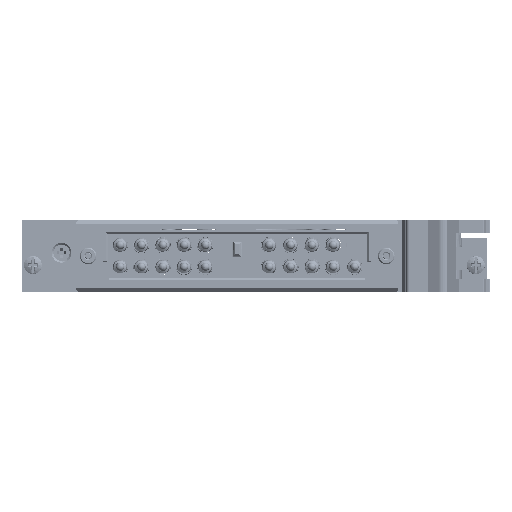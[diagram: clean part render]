
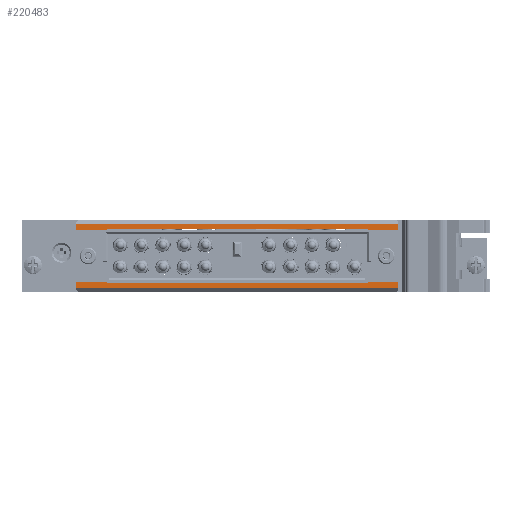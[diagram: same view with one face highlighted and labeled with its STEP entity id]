
A CAD part, left-side view. The second image highlights one B-rep face of the part: STEP entity #220483.
In plain terms, the highlighted planar face has unit normal (-1, 0, 0) as drawn and (0, 0, 1) by its records, which use the part's own axes.
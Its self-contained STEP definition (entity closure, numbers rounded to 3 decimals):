
#1611 = DIRECTION ( 'NONE',  ( 0., 0., -1. ) ) ;
#2577 = CIRCLE ( 'NONE', #169695, 1.3 ) ;
#4949 = CARTESIAN_POINT ( 'NONE',  ( 2.4, 17.9, 0. ) ) ;
#5783 = DIRECTION ( 'NONE',  ( 0., 0., -1. ) ) ;
#6589 = VERTEX_POINT ( 'NONE', #442742 ) ;
#7136 = VERTEX_POINT ( 'NONE', #204268 ) ;
#7488 = LINE ( 'NONE', #409384, #158562 ) ;
#13667 = DIRECTION ( 'NONE',  ( -1., 0., 0. ) ) ;
#14513 = DIRECTION ( 'NONE',  ( -1., 0., 0. ) ) ;
#15456 = EDGE_CURVE ( 'NONE', #336408, #7136, #415540, .T. ) ;
#21390 = CARTESIAN_POINT ( 'NONE',  ( 16.6, 17.9, 0. ) ) ;
#22224 = VERTEX_POINT ( 'NONE', #103247 ) ;
#23146 = AXIS2_PLACEMENT_3D ( 'NONE', #235941, #387944, #93170 ) ;
#23601 = VECTOR ( 'NONE', #177581, 1000. ) ;
#25145 = VERTEX_POINT ( 'NONE', #361915 ) ;
#26483 = EDGE_CURVE ( 'NONE', #216896, #230607, #148029, .T. ) ;
#30618 = EDGE_CURVE ( 'NONE', #6589, #336408, #218602, .T. ) ;
#31776 = EDGE_CURVE ( 'NONE', #428355, #45365, #372930, .T. ) ;
#33470 = CARTESIAN_POINT ( 'NONE',  ( 3.4, 88.9, 0. ) ) ;
#36454 = DIRECTION ( 'NONE',  ( 0., -1., 0. ) ) ;
#41565 = CARTESIAN_POINT ( 'NONE',  ( 1., 8.8, 0. ) ) ;
#45365 = VERTEX_POINT ( 'NONE', #313812 ) ;
#47147 = CARTESIAN_POINT ( 'NONE',  ( 2.4, 112.9, 0. ) ) ;
#56345 = EDGE_LOOP ( 'NONE', ( #83789, #281522 ) ) ;
#57867 = VECTOR ( 'NONE', #354580, 1000. ) ;
#61900 = DIRECTION ( 'NONE',  ( -1., 0., 0. ) ) ;
#62850 = CIRCLE ( 'NONE', #199689, 1. ) ;
#64407 = EDGE_LOOP ( 'NONE', ( #246586, #457814 ) ) ;
#70059 = CARTESIAN_POINT ( 'NONE',  ( 10., 94.7, 0. ) ) ;
#71965 = CARTESIAN_POINT ( 'NONE',  ( 19., 97., 0. ) ) ;
#80831 = ORIENTED_EDGE ( 'NONE', *, *, #196107, .T. ) ;
#82844 = EDGE_CURVE ( 'NONE', #152511, #447654, #114751, .T. ) ;
#83789 = ORIENTED_EDGE ( 'NONE', *, *, #428680, .T. ) ;
#84959 = VERTEX_POINT ( 'NONE', #41565 ) ;
#93170 = DIRECTION ( 'NONE',  ( -1., 0., 0. ) ) ;
#93571 = DIRECTION ( 'NONE',  ( -1., 0., 0. ) ) ;
#96625 = CARTESIAN_POINT ( 'NONE',  ( 16.6, 88.9, 0. ) ) ;
#101089 = AXIS2_PLACEMENT_3D ( 'NONE', #33470, #468716, #423683 ) ;
#103247 = CARTESIAN_POINT ( 'NONE',  ( 16.6, 89.9, 0. ) ) ;
#104447 = AXIS2_PLACEMENT_3D ( 'NONE', #21390, #130801, #385205 ) ;
#107001 = CIRCLE ( 'NONE', #23146, 1. ) ;
#113366 = VERTEX_POINT ( 'NONE', #309330 ) ;
#114737 = EDGE_LOOP ( 'NONE', ( #410338, #465293, #243467, #80831 ) ) ;
#114751 = LINE ( 'NONE', #71965, #290606 ) ;
#115992 = CIRCLE ( 'NONE', #101089, 1. ) ;
#123894 = FACE_BOUND ( 'NONE', #64407, .T. ) ;
#130125 = CARTESIAN_POINT ( 'NONE',  ( 16.6, 16.9, 0. ) ) ;
#130801 = DIRECTION ( 'NONE',  ( 0., 0., -1. ) ) ;
#140510 = AXIS2_PLACEMENT_3D ( 'NONE', #378861, #383568, #93571 ) ;
#146509 = VECTOR ( 'NONE', #13667, 1000. ) ;
#147143 = ORIENTED_EDGE ( 'NONE', *, *, #169003, .T. ) ;
#148029 = CIRCLE ( 'NONE', #140510, 1.3 ) ;
#152511 = VERTEX_POINT ( 'NONE', #312368 ) ;
#152671 = CARTESIAN_POINT ( 'NONE',  ( 8.7, 12.1, 0. ) ) ;
#158083 = CIRCLE ( 'NONE', #454079, 1.3 ) ;
#158562 = VECTOR ( 'NONE', #14513, 1000. ) ;
#161590 = EDGE_CURVE ( 'NONE', #230607, #216896, #2577, .T. ) ;
#161839 = DIRECTION ( 'NONE',  ( 0., 0., -1. ) ) ;
#169003 = EDGE_CURVE ( 'NONE', #113366, #22224, #407484, .T. ) ;
#169695 = AXIS2_PLACEMENT_3D ( 'NONE', #70059, #5783, #362528 ) ;
#171954 = ORIENTED_EDGE ( 'NONE', *, *, #224300, .T. ) ;
#177581 = DIRECTION ( 'NONE',  ( 0., -1., 0. ) ) ;
#184057 = CARTESIAN_POINT ( 'NONE',  ( 10., 12.1, 0. ) ) ;
#187774 = ORIENTED_EDGE ( 'NONE', *, *, #30618, .T. ) ;
#192320 = DIRECTION ( 'NONE',  ( 0., 1., 0. ) ) ;
#194048 = EDGE_CURVE ( 'NONE', #7136, #428355, #107001, .T. ) ;
#196107 = EDGE_CURVE ( 'NONE', #450205, #84959, #362221, .T. ) ;
#197588 = PLANE ( 'NONE',  #318919 ) ;
#199689 = AXIS2_PLACEMENT_3D ( 'NONE', #96625, #422390, #241802 ) ;
#204268 = CARTESIAN_POINT ( 'NONE',  ( 3.4, 16.9, 0. ) ) ;
#214976 = CARTESIAN_POINT ( 'NONE',  ( 1., 9.8, 0. ) ) ;
#216004 = EDGE_CURVE ( 'NONE', #333958, #442224, #450800, .T. ) ;
#216896 = VERTEX_POINT ( 'NONE', #410662 ) ;
#218598 = CARTESIAN_POINT ( 'NONE',  ( 10., 12.1, 0. ) ) ;
#218602 = CIRCLE ( 'NONE', #104447, 1. ) ;
#220483 = ADVANCED_FACE ( 'NONE', ( #123894, #380529, #264312, #269041 ), #197588, .F. ) ;
#220489 = ORIENTED_EDGE ( 'NONE', *, *, #313787, .T. ) ;
#224300 = EDGE_CURVE ( 'NONE', #25145, #6589, #389234, .T. ) ;
#230607 = VERTEX_POINT ( 'NONE', #458176 ) ;
#235941 = CARTESIAN_POINT ( 'NONE',  ( 3.4, 17.9, 0. ) ) ;
#241802 = DIRECTION ( 'NONE',  ( -1., 0., 0. ) ) ;
#243467 = ORIENTED_EDGE ( 'NONE', *, *, #463755, .F. ) ;
#243646 = CARTESIAN_POINT ( 'NONE',  ( 19., 98., 0. ) ) ;
#245766 = AXIS2_PLACEMENT_3D ( 'NONE', #184057, #161839, #271316 ) ;
#246586 = ORIENTED_EDGE ( 'NONE', *, *, #161590, .T. ) ;
#248876 = EDGE_CURVE ( 'NONE', #152511, #84959, #7488, .T. ) ;
#250939 = CARTESIAN_POINT ( 'NONE',  ( 11.3, 12.1, 0. ) ) ;
#264312 = FACE_BOUND ( 'NONE', #288859, .T. ) ;
#267204 = DIRECTION ( 'NONE',  ( 1., 0., 0. ) ) ;
#269041 = FACE_OUTER_BOUND ( 'NONE', #114737, .T. ) ;
#271316 = DIRECTION ( 'NONE',  ( -1., 0., 0. ) ) ;
#281128 = VECTOR ( 'NONE', #36454, 1000. ) ;
#281522 = ORIENTED_EDGE ( 'NONE', *, *, #216004, .T. ) ;
#288859 = EDGE_LOOP ( 'NONE', ( #456134, #398730, #147143, #220489, #171954, #187774, #291514, #327800 ) ) ;
#289342 = CARTESIAN_POINT ( 'NONE',  ( 17.6, 112.9, 0. ) ) ;
#290606 = VECTOR ( 'NONE', #393188, 1000. ) ;
#291514 = ORIENTED_EDGE ( 'NONE', *, *, #15456, .T. ) ;
#292647 = CARTESIAN_POINT ( 'NONE',  ( 0., 98., 0. ) ) ;
#309330 = CARTESIAN_POINT ( 'NONE',  ( 3.4, 89.9, 0. ) ) ;
#312368 = CARTESIAN_POINT ( 'NONE',  ( 19., 8.8, 0. ) ) ;
#313787 = EDGE_CURVE ( 'NONE', #22224, #25145, #62850, .T. ) ;
#313812 = CARTESIAN_POINT ( 'NONE',  ( 2.4, 88.9, 0. ) ) ;
#318919 = AXIS2_PLACEMENT_3D ( 'NONE', #342602, #1611, #61900 ) ;
#321366 = EDGE_CURVE ( 'NONE', #45365, #113366, #115992, .T. ) ;
#327800 = ORIENTED_EDGE ( 'NONE', *, *, #194048, .T. ) ;
#333958 = VERTEX_POINT ( 'NONE', #152671 ) ;
#336408 = VERTEX_POINT ( 'NONE', #130125 ) ;
#339481 = CARTESIAN_POINT ( 'NONE',  ( 0., 16.9, 0. ) ) ;
#341363 = VECTOR ( 'NONE', #192320, 1000. ) ;
#342602 = CARTESIAN_POINT ( 'NONE',  ( 0., 112.9, 0. ) ) ;
#354580 = DIRECTION ( 'NONE',  ( 1., 0., 0. ) ) ;
#356365 = VECTOR ( 'NONE', #267204, 1000. ) ;
#361915 = CARTESIAN_POINT ( 'NONE',  ( 17.6, 88.9, 0. ) ) ;
#362221 = LINE ( 'NONE', #214976, #281128 ) ;
#362528 = DIRECTION ( 'NONE',  ( -1., 0., 0. ) ) ;
#365827 = DIRECTION ( 'NONE',  ( 0., 0., -1. ) ) ;
#372930 = LINE ( 'NONE', #47147, #341363 ) ;
#378861 = CARTESIAN_POINT ( 'NONE',  ( 10., 94.7, 0. ) ) ;
#380529 = FACE_BOUND ( 'NONE', #56345, .T. ) ;
#383568 = DIRECTION ( 'NONE',  ( 0., 0., -1. ) ) ;
#385205 = DIRECTION ( 'NONE',  ( -1., 0., 0. ) ) ;
#387944 = DIRECTION ( 'NONE',  ( 0., 0., -1. ) ) ;
#389234 = LINE ( 'NONE', #289342, #23601 ) ;
#393188 = DIRECTION ( 'NONE',  ( 0., 1., 0. ) ) ;
#398730 = ORIENTED_EDGE ( 'NONE', *, *, #321366, .T. ) ;
#407484 = LINE ( 'NONE', #447796, #356365 ) ;
#409384 = CARTESIAN_POINT ( 'NONE',  ( 20., 8.8, 0. ) ) ;
#410338 = ORIENTED_EDGE ( 'NONE', *, *, #248876, .F. ) ;
#410662 = CARTESIAN_POINT ( 'NONE',  ( 8.7, 94.7, 0. ) ) ;
#415540 = LINE ( 'NONE', #339481, #146509 ) ;
#422390 = DIRECTION ( 'NONE',  ( 0., 0., -1. ) ) ;
#423683 = DIRECTION ( 'NONE',  ( -1., 0., 0. ) ) ;
#428355 = VERTEX_POINT ( 'NONE', #4949 ) ;
#428680 = EDGE_CURVE ( 'NONE', #442224, #333958, #158083, .T. ) ;
#430210 = DIRECTION ( 'NONE',  ( -1., 0., 0. ) ) ;
#435260 = LINE ( 'NONE', #292647, #57867 ) ;
#436258 = CARTESIAN_POINT ( 'NONE',  ( 1., 98., 0. ) ) ;
#442224 = VERTEX_POINT ( 'NONE', #250939 ) ;
#442742 = CARTESIAN_POINT ( 'NONE',  ( 17.6, 17.9, 0. ) ) ;
#447654 = VERTEX_POINT ( 'NONE', #243646 ) ;
#447796 = CARTESIAN_POINT ( 'NONE',  ( 0., 89.9, 0. ) ) ;
#450205 = VERTEX_POINT ( 'NONE', #436258 ) ;
#450800 = CIRCLE ( 'NONE', #245766, 1.3 ) ;
#454079 = AXIS2_PLACEMENT_3D ( 'NONE', #218598, #365827, #430210 ) ;
#456134 = ORIENTED_EDGE ( 'NONE', *, *, #31776, .T. ) ;
#457814 = ORIENTED_EDGE ( 'NONE', *, *, #26483, .T. ) ;
#458176 = CARTESIAN_POINT ( 'NONE',  ( 11.3, 94.7, 0. ) ) ;
#463755 = EDGE_CURVE ( 'NONE', #450205, #447654, #435260, .T. ) ;
#465293 = ORIENTED_EDGE ( 'NONE', *, *, #82844, .T. ) ;
#468716 = DIRECTION ( 'NONE',  ( 0., 0., -1. ) ) ;
